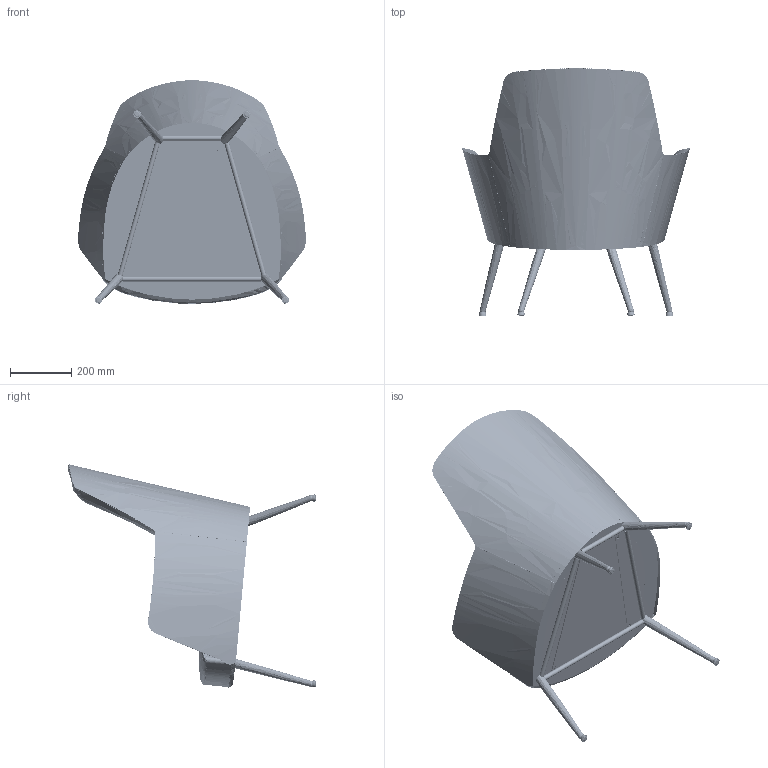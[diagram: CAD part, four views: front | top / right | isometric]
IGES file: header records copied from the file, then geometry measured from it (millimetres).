
Start section: SolidWorks IGES file using analytic representation for surfaces
Global section: file name: \\datasvrms1\imagens\NOVAS COLEÇÕES\EN\GLOW METAL\IGS\GL004 Lounge LowBack - Metal Series.IGS; native system: SolidWorks 2016; preprocessor: SolidWorks 2016; author: Design; date: 160314.100948; units: millimetre
Bounding box: 745.69 x 810.64 x 731.65 mm (x, y, z)
Surface area: 4056790 mm2 (no closed solid volume)
Topology: 0 solids, 0 shells, 5489 faces, 36283 edges, 33339 vertices
Faces by surface type: bspline 3466, revolution 2023
